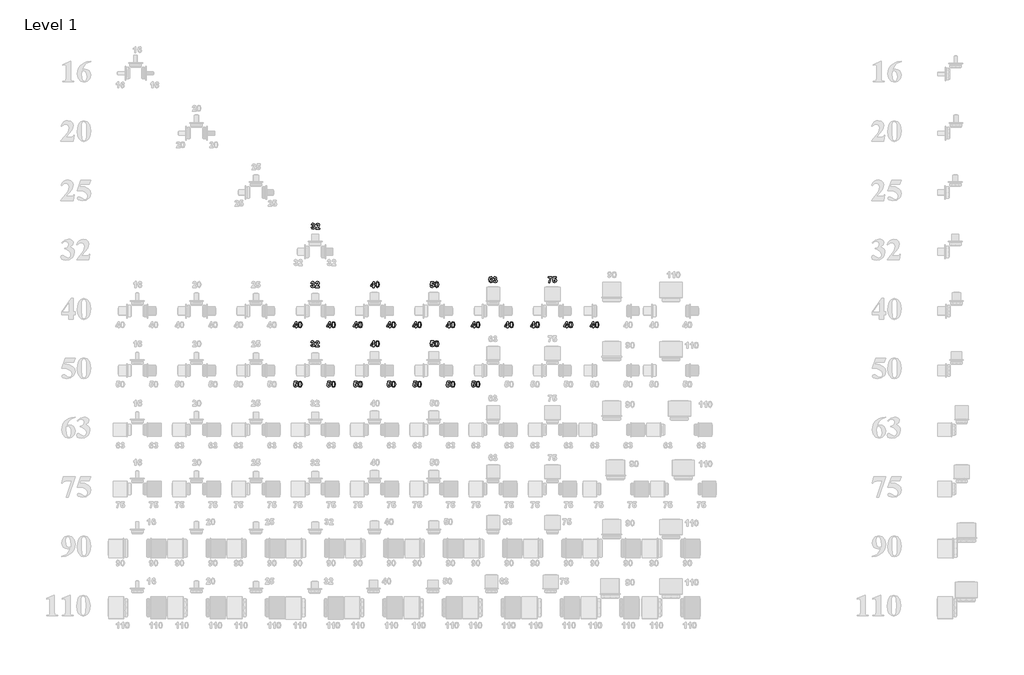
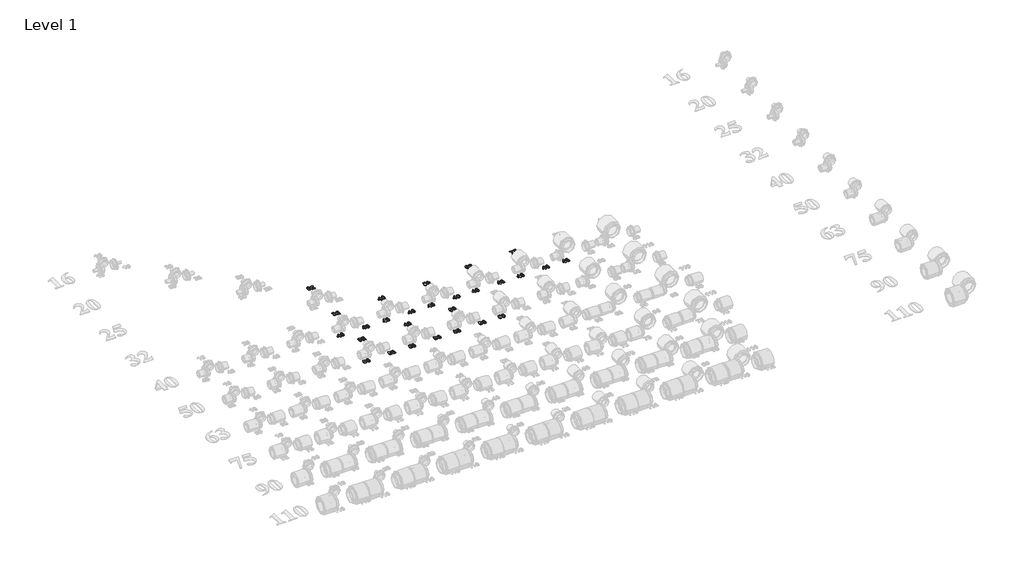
# One storey, part 24 of 57: 27 proxies.
"""IFC4 building model written with IfcOpenShell, lengths in millimetres."""

from ifc_helpers import new_model, si_unit, frame, origin, place, context, project, spatial, polyline, outline, extrude, element, save

model = new_model("IFC4")

# Units and contexts
model_context = context("Model", 3, world=origin())
ifc_project = project(units=[si_unit("LENGTHUNIT", "METRE", prefix="MILLI")], contexts=[model_context])

# Site, building, storey
site = spatial("IfcSite", under=ifc_project)
building = spatial("IfcBuilding", under=site)
storey = spatial("IfcBuildingStorey", under=building, Name="Level 1", Elevation=27.3876384)

# Proxies
placement = place(None, origin())
element("IfcBuildingElementProxy", 1, Name="30mm Arial", ObjectType="30mm Arial", at=placement, inside=storey, context=model_context, shape_type="SweptSolid", body=[
    extrude(outline(polyline([(14145.5234103, 17869.9527947), (14151.353464, 17870.6284129), (14152.6667443, 17867.3793725), (14155.2553489, 17866.2558726), (14158.0109602, 17867.5425837), (14159.1268689, 17871.0079737), (14158.1058504, 17874.2797877), (14155.612136, 17875.486791), (14153.2968152, 17875.0540917), (14153.8054267, 17879.8593313), (14156.6787018, 17880.8158244), (14157.6693555, 17883.5182973), (14156.929212, 17885.8070488), (14154.9592915, 17886.6610606), (14152.8830939, 17885.6704069), (14151.8393018, 17882.7743581), (14146.0092481, 17883.6473479), (14147.6147902, 17888.2817852), (14150.6133204, 17891.0108272), (14154.9213354, 17892.0052765), (14161.4649634, 17889.2496652), (14163.4994092, 17884.1483682), (14159.1344601, 17877.7186084), (14163.3703585, 17875.2173028), (14164.9569226, 17870.5221359), (14162.1443772, 17863.7242021), (14155.1414806, 17860.9116567), (14148.556101, 17863.4129623), (14145.5234103, 17869.9527947)])), frame((0.0, 0.0, 27.3876384), z_axis=(0.0, 0.0, 1.0), x_axis=(1.0, 0.0, 0.0)), (0.0, 0.0, 1.0), 2.0),
    extrude(outline(polyline([(14188.2771375, 17867.2275482), (14188.2771375, 17861.3974945), (14168.8436251, 17861.3974945), (14170.703473, 17867.1174756), (14176.8144017, 17874.2873789), (14181.3235838, 17879.1761218), (14182.4470838, 17882.6832635), (14181.5019774, 17885.6324508), (14178.8943948, 17886.6610606), (14176.2830166, 17885.6476333), (14175.1595166, 17882.2885203), (14169.3294629, 17882.8199054), (14172.4570438, 17889.8683493), (14179.0234455, 17892.0052765), (14185.8099924, 17889.6102479), (14188.2771375, 17883.6549391), (14187.6015193, 17879.7986015), (14185.4607964, 17875.9650376), (14181.8359909, 17872.1390648), (14178.5072428, 17868.8217035), (14177.4141077, 17867.2275482), (14188.2771375, 17867.2275482)])), frame((0.0, 0.0, 27.3876384), z_axis=(0.0, 0.0, 1.0), x_axis=(1.0, 0.0, 0.0)), (0.0, 0.0, 1.0), 2.0),
])
element("IfcBuildingElementProxy", 2, Name="30mm Arial", ObjectType="30mm Arial", at=placement, inside=storey, context=model_context, shape_type="SweptSolid", body=[
    extrude(outline(polyline([(14067.2836573, 17362.5788539), (14067.2836573, 17368.8947455), (14055.6235498, 17368.8947455), (14055.6235498, 17373.7303499), (14068.0579613, 17392.7007981), (14073.113711, 17392.7007981), (14073.113711, 17373.7531236), (14077.0004134, 17373.7531236), (14077.0004134, 17368.8947455), (14073.113711, 17368.8947455), (14073.113711, 17362.5788539), (14067.2836573, 17362.5788539)]), holes=[polyline([(14067.2836573, 17373.7531236), (14067.2836573, 17383.6976162), (14060.7703941, 17373.7531236), (14067.2836573, 17373.7531236)])]), frame((0.0, 0.0, 27.3876384), z_axis=(0.0, 0.0, 1.0), x_axis=(1.0, 0.0, 0.0)), (0.0, 0.0, 1.0), 2.0),
    extrude(outline(polyline([(14089.6321965, 17393.1866359), (14096.4263346, 17390.0286902), (14099.3489527, 17377.6322348), (14096.4111522, 17365.2054146), (14089.6321965, 17362.0930161), (14082.5913439, 17365.5090632), (14079.9154403, 17377.6929645), (14082.8532408, 17390.0742375), (14089.6321965, 17393.1866359)]), holes=[polyline([(14089.6321965, 17387.84242), (14087.6888453, 17387.2009623), (14086.3679737, 17384.8970283), (14085.745494, 17377.6322348), (14086.2996528, 17370.6141558), (14087.7002321, 17368.0710985), (14089.6321965, 17367.437232), (14091.5755477, 17368.0786898), (14092.8964193, 17370.3826237), (14093.518899, 17377.6322348), (14092.9647402, 17384.6465182), (14091.5641609, 17387.2009623), (14089.6321965, 17387.84242)])]), frame((0.0, 0.0, 27.3876384), z_axis=(0.0, 0.0, 1.0), x_axis=(1.0, 0.0, 0.0)), (0.0, 0.0, 1.0), 2.0),
])
element("IfcBuildingElementProxy", 3, Name="30mm Arial", ObjectType="30mm Arial", at=placement, inside=storey, context=model_context, shape_type="SweptSolid", body=[
    extrude(outline(polyline([(14236.0336573, 17362.5788539), (14236.0336573, 17368.8947455), (14224.3735498, 17368.8947455), (14224.3735498, 17373.7303499), (14236.8079613, 17392.7007981), (14241.863711, 17392.7007981), (14241.863711, 17373.7531236), (14245.7504134, 17373.7531236), (14245.7504134, 17368.8947455), (14241.863711, 17368.8947455), (14241.863711, 17362.5788539), (14236.0336573, 17362.5788539)]), holes=[polyline([(14236.0336573, 17373.7531236), (14236.0336573, 17383.6976162), (14229.5203941, 17373.7531236), (14236.0336573, 17373.7531236)])]), frame((0.0, 0.0, 27.3876384), z_axis=(0.0, 0.0, 1.0), x_axis=(1.0, 0.0, 0.0)), (0.0, 0.0, 1.0), 2.0),
    extrude(outline(polyline([(14258.3821965, 17393.1866359), (14265.1763346, 17390.0286902), (14268.0989527, 17377.6322348), (14265.1611522, 17365.2054146), (14258.3821965, 17362.0930161), (14251.3413439, 17365.5090632), (14248.6654403, 17377.6929645), (14251.6032408, 17390.0742375), (14258.3821965, 17393.1866359)]), holes=[polyline([(14258.3821965, 17387.84242), (14256.4388453, 17387.2009623), (14255.1179737, 17384.8970283), (14254.495494, 17377.6322348), (14255.0496528, 17370.6141558), (14256.4502321, 17368.0710985), (14258.3821965, 17367.437232), (14260.3255477, 17368.0786898), (14261.6464193, 17370.3826237), (14262.268899, 17377.6322348), (14261.7147402, 17384.6465182), (14260.3141609, 17387.2009623), (14258.3821965, 17387.84242)])]), frame((0.0, 0.0, 27.3876384), z_axis=(0.0, 0.0, 1.0), x_axis=(1.0, 0.0, 0.0)), (0.0, 0.0, 1.0), 2.0),
])
element("IfcBuildingElementProxy", 4, Name="30mm Arial", ObjectType="30mm Arial", at=placement, inside=storey, context=model_context, shape_type="SweptSolid", body=[
    extrude(outline(polyline([(14143.5234103, 17574.9527947), (14149.353464, 17575.6284129), (14150.6667443, 17572.3793725), (14153.2553489, 17571.2558726), (14156.0109602, 17572.5425837), (14157.1268689, 17576.0079737), (14156.1058504, 17579.2797877), (14153.612136, 17580.486791), (14151.2968152, 17580.0540917), (14151.8054267, 17584.8593313), (14154.6787018, 17585.8158244), (14155.6693555, 17588.5182973), (14154.929212, 17590.8070488), (14152.9592915, 17591.6610606), (14150.8830939, 17590.6704069), (14149.8393018, 17587.7743581), (14144.0092481, 17588.6473479), (14145.6147902, 17593.2817852), (14148.6133204, 17596.0108272), (14152.9213354, 17597.0052765), (14159.4649634, 17594.2496652), (14161.4994092, 17589.1483682), (14157.1344601, 17582.7186084), (14161.3703585, 17580.2173028), (14162.9569226, 17575.5221359), (14160.1443772, 17568.7242021), (14153.1414806, 17565.9116567), (14146.556101, 17568.4129623), (14143.5234103, 17574.9527947)])), frame((0.0, 0.0, 27.3876384), z_axis=(0.0, 0.0, 1.0), x_axis=(1.0, 0.0, 0.0)), (0.0, 0.0, 1.0), 2.0),
    extrude(outline(polyline([(14186.2771375, 17572.2275482), (14186.2771375, 17566.3974945), (14166.8436251, 17566.3974945), (14168.703473, 17572.1174756), (14174.8144017, 17579.2873789), (14179.3235838, 17584.1761218), (14180.4470838, 17587.6832635), (14179.5019774, 17590.6324508), (14176.8943948, 17591.6610606), (14174.2830166, 17590.6476333), (14173.1595166, 17587.2885203), (14167.3294629, 17587.8199054), (14170.4570438, 17594.8683493), (14177.0234455, 17597.0052765), (14183.8099924, 17594.6102479), (14186.2771375, 17588.6549391), (14185.6015193, 17584.7986015), (14183.4607964, 17580.9650376), (14179.8359909, 17577.1390648), (14176.5072428, 17573.8217035), (14175.4141077, 17572.2275482), (14186.2771375, 17572.2275482)])), frame((0.0, 0.0, 27.3876384), z_axis=(0.0, 0.0, 1.0), x_axis=(1.0, 0.0, 0.0)), (0.0, 0.0, 1.0), 2.0),
])
element("IfcBuildingElementProxy", 5, Name="30mm Arial", ObjectType="30mm Arial", at=placement, inside=storey, context=model_context, shape_type="SweptSolid", body=[
    extrude(outline(polyline([(14371.2836573, 17362.5788539), (14371.2836573, 17368.8947455), (14359.6235498, 17368.8947455), (14359.6235498, 17373.7303499), (14372.0579613, 17392.7007981), (14377.113711, 17392.7007981), (14377.113711, 17373.7531236), (14381.0004134, 17373.7531236), (14381.0004134, 17368.8947455), (14377.113711, 17368.8947455), (14377.113711, 17362.5788539), (14371.2836573, 17362.5788539)]), holes=[polyline([(14371.2836573, 17373.7531236), (14371.2836573, 17383.6976162), (14364.7703941, 17373.7531236), (14371.2836573, 17373.7531236)])]), frame((0.0, 0.0, 27.3876384), z_axis=(0.0, 0.0, 1.0), x_axis=(1.0, 0.0, 0.0)), (0.0, 0.0, 1.0), 2.0),
    extrude(outline(polyline([(14393.6321965, 17393.1866359), (14400.4263346, 17390.0286902), (14403.3489527, 17377.6322348), (14400.4111522, 17365.2054146), (14393.6321965, 17362.0930161), (14386.5913439, 17365.5090632), (14383.9154403, 17377.6929645), (14386.8532408, 17390.0742375), (14393.6321965, 17393.1866359)]), holes=[polyline([(14393.6321965, 17387.84242), (14391.6888453, 17387.2009623), (14390.3679737, 17384.8970283), (14389.745494, 17377.6322348), (14390.2996528, 17370.6141558), (14391.7002321, 17368.0710985), (14393.6321965, 17367.437232), (14395.5755477, 17368.0786898), (14396.8964193, 17370.3826237), (14397.518899, 17377.6322348), (14396.9647402, 17384.6465182), (14395.5641609, 17387.2009623), (14393.6321965, 17387.84242)])]), frame((0.0, 0.0, 27.3876384), z_axis=(0.0, 0.0, 1.0), x_axis=(1.0, 0.0, 0.0)), (0.0, 0.0, 1.0), 2.0),
])
element("IfcBuildingElementProxy", 6, Name="30mm Arial", ObjectType="30mm Arial", at=placement, inside=storey, context=model_context, shape_type="SweptSolid", body=[
    extrude(outline(polyline([(14540.0336573, 17362.5788539), (14540.0336573, 17368.8947455), (14528.3735498, 17368.8947455), (14528.3735498, 17373.7303499), (14540.8079613, 17392.7007981), (14545.863711, 17392.7007981), (14545.863711, 17373.7531236), (14549.7504134, 17373.7531236), (14549.7504134, 17368.8947455), (14545.863711, 17368.8947455), (14545.863711, 17362.5788539), (14540.0336573, 17362.5788539)]), holes=[polyline([(14540.0336573, 17373.7531236), (14540.0336573, 17383.6976162), (14533.5203941, 17373.7531236), (14540.0336573, 17373.7531236)])]), frame((0.0, 0.0, 27.3876384), z_axis=(0.0, 0.0, 1.0), x_axis=(1.0, 0.0, 0.0)), (0.0, 0.0, 1.0), 2.0),
    extrude(outline(polyline([(14562.3821965, 17393.1866359), (14569.1763346, 17390.0286902), (14572.0989527, 17377.6322348), (14569.1611522, 17365.2054146), (14562.3821965, 17362.0930161), (14555.3413439, 17365.5090632), (14552.6654403, 17377.6929645), (14555.6032408, 17390.0742375), (14562.3821965, 17393.1866359)]), holes=[polyline([(14562.3821965, 17387.84242), (14560.4388453, 17387.2009623), (14559.1179737, 17384.8970283), (14558.495494, 17377.6322348), (14559.0496528, 17370.6141558), (14560.4502321, 17368.0710985), (14562.3821965, 17367.437232), (14564.3255477, 17368.0786898), (14565.6464193, 17370.3826237), (14566.268899, 17377.6322348), (14565.7147402, 17384.6465182), (14564.3141609, 17387.2009623), (14562.3821965, 17387.84242)])]), frame((0.0, 0.0, 27.3876384), z_axis=(0.0, 0.0, 1.0), x_axis=(1.0, 0.0, 0.0)), (0.0, 0.0, 1.0), 2.0),
])
element("IfcBuildingElementProxy", 7, Name="30mm Arial", ObjectType="30mm Arial", at=placement, inside=storey, context=model_context, shape_type="SweptSolid", body=[
    extrude(outline(polyline([(14458.2118421, 17566.3974945), (14458.2118421, 17572.713386), (14446.5517346, 17572.713386), (14446.5517346, 17577.5489905), (14458.9861461, 17596.5194387), (14464.0418958, 17596.5194387), (14464.0418958, 17577.5717641), (14467.9285983, 17577.5717641), (14467.9285983, 17572.713386), (14464.0418958, 17572.713386), (14464.0418958, 17566.3974945), (14458.2118421, 17566.3974945)]), holes=[polyline([(14458.2118421, 17577.5717641), (14458.2118421, 17587.5162568), (14451.6985789, 17577.5717641), (14458.2118421, 17577.5717641)])]), frame((0.0, 0.0, 27.3876384), z_axis=(0.0, 0.0, 1.0), x_axis=(1.0, 0.0, 0.0)), (0.0, 0.0, 1.0), 2.0),
    extrude(outline(polyline([(14480.5603813, 17597.0052765), (14487.3545194, 17593.8473307), (14490.2771375, 17581.4508754), (14487.339337, 17569.0240552), (14480.5603813, 17565.9116567), (14473.5195287, 17569.3277038), (14470.8436251, 17581.5116051), (14473.7814256, 17593.892878), (14480.5603813, 17597.0052765)]), holes=[polyline([(14480.5603813, 17591.6610606), (14478.6170301, 17591.0196029), (14477.2961585, 17588.7156689), (14476.6736788, 17581.4508754), (14477.2278376, 17574.4327964), (14478.6284169, 17571.8897391), (14480.5603813, 17571.2558726), (14482.5037325, 17571.8973303), (14483.8246041, 17574.2012643), (14484.4470838, 17581.4508754), (14483.892925, 17588.4651587), (14482.4923457, 17591.0196029), (14480.5603813, 17591.6610606)])]), frame((0.0, 0.0, 27.3876384), z_axis=(0.0, 0.0, 1.0), x_axis=(1.0, 0.0, 0.0)), (0.0, 0.0, 1.0), 2.0),
])
element("IfcBuildingElementProxy", 8, Name="30mm Arial", ObjectType="30mm Arial", at=placement, inside=storey, context=model_context, shape_type="SweptSolid", body=[
    extrude(outline(polyline([(14671.2836573, 17362.5788539), (14671.2836573, 17368.8947455), (14659.6235498, 17368.8947455), (14659.6235498, 17373.7303499), (14672.0579613, 17392.7007981), (14677.113711, 17392.7007981), (14677.113711, 17373.7531236), (14681.0004134, 17373.7531236), (14681.0004134, 17368.8947455), (14677.113711, 17368.8947455), (14677.113711, 17362.5788539), (14671.2836573, 17362.5788539)]), holes=[polyline([(14671.2836573, 17373.7531236), (14671.2836573, 17383.6976162), (14664.7703941, 17373.7531236), (14671.2836573, 17373.7531236)])]), frame((0.0, 0.0, 27.3876384), z_axis=(0.0, 0.0, 1.0), x_axis=(1.0, 0.0, 0.0)), (0.0, 0.0, 1.0), 2.0),
    extrude(outline(polyline([(14693.6321965, 17393.1866359), (14700.4263346, 17390.0286902), (14703.3489527, 17377.6322348), (14700.4111522, 17365.2054146), (14693.6321965, 17362.0930161), (14686.5913439, 17365.5090632), (14683.9154403, 17377.6929645), (14686.8532408, 17390.0742375), (14693.6321965, 17393.1866359)]), holes=[polyline([(14693.6321965, 17387.84242), (14691.6888453, 17387.2009623), (14690.3679737, 17384.8970283), (14689.745494, 17377.6322348), (14690.2996528, 17370.6141558), (14691.7002321, 17368.0710985), (14693.6321965, 17367.437232), (14695.5755477, 17368.0786898), (14696.8964193, 17370.3826237), (14697.518899, 17377.6322348), (14696.9647402, 17384.6465182), (14695.5641609, 17387.2009623), (14693.6321965, 17387.84242)])]), frame((0.0, 0.0, 27.3876384), z_axis=(0.0, 0.0, 1.0), x_axis=(1.0, 0.0, 0.0)), (0.0, 0.0, 1.0), 2.0),
])
element("IfcBuildingElementProxy", 9, Name="30mm Arial", ObjectType="30mm Arial", at=placement, inside=storey, context=model_context, shape_type="SweptSolid", body=[
    extrude(outline(polyline([(14840.0336573, 17362.5788539), (14840.0336573, 17368.8947455), (14828.3735498, 17368.8947455), (14828.3735498, 17373.7303499), (14840.8079613, 17392.7007981), (14845.863711, 17392.7007981), (14845.863711, 17373.7531236), (14849.7504134, 17373.7531236), (14849.7504134, 17368.8947455), (14845.863711, 17368.8947455), (14845.863711, 17362.5788539), (14840.0336573, 17362.5788539)]), holes=[polyline([(14840.0336573, 17373.7531236), (14840.0336573, 17383.6976162), (14833.5203941, 17373.7531236), (14840.0336573, 17373.7531236)])]), frame((0.0, 0.0, 27.3876384), z_axis=(0.0, 0.0, 1.0), x_axis=(1.0, 0.0, 0.0)), (0.0, 0.0, 1.0), 2.0),
    extrude(outline(polyline([(14862.3821965, 17393.1866359), (14869.1763346, 17390.0286902), (14872.0989527, 17377.6322348), (14869.1611522, 17365.2054146), (14862.3821965, 17362.0930161), (14855.3413439, 17365.5090632), (14852.6654403, 17377.6929645), (14855.6032408, 17390.0742375), (14862.3821965, 17393.1866359)]), holes=[polyline([(14862.3821965, 17387.84242), (14860.4388453, 17387.2009623), (14859.1179737, 17384.8970283), (14858.495494, 17377.6322348), (14859.0496528, 17370.6141558), (14860.4502321, 17368.0710985), (14862.3821965, 17367.437232), (14864.3255477, 17368.0786898), (14865.6464193, 17370.3826237), (14866.268899, 17377.6322348), (14865.7147402, 17384.6465182), (14864.3141609, 17387.2009623), (14862.3821965, 17387.84242)])]), frame((0.0, 0.0, 27.3876384), z_axis=(0.0, 0.0, 1.0), x_axis=(1.0, 0.0, 0.0)), (0.0, 0.0, 1.0), 2.0),
])
element("IfcBuildingElementProxy", 10, Name="30mm Arial", ObjectType="30mm Arial", at=placement, inside=storey, context=model_context, shape_type="SweptSolid", body=[
    extrude(outline(polyline([(14747.5234103, 17575.0135244), (14752.8676262, 17575.6284129), (14754.3555044, 17572.432511), (14757.2098016, 17571.2558726), (14760.3335869, 17572.5046276), (14761.6127067, 17576.266075), (14760.4246815, 17579.7959903), (14757.331261, 17580.9726288), (14753.0649978, 17578.5434397), (14748.0092481, 17579.2949701), (14751.4101127, 17596.5194387), (14765.985247, 17596.5194387), (14765.985247, 17590.689385), (14756.1242577, 17590.689385), (14754.9476193, 17585.1250238), (14758.7052711, 17586.3168447), (14764.8997032, 17583.5574377), (14767.4427604, 17576.3951257), (14765.3248112, 17569.8439065), (14757.3008962, 17565.9116567), (14750.6168307, 17568.3788018), (14747.5234103, 17575.0135244)])), frame((0.0, 0.0, 27.3876384), z_axis=(0.0, 0.0, 1.0), x_axis=(1.0, 0.0, 0.0)), (0.0, 0.0, 1.0), 2.0),
    extrude(outline(polyline([(14780.5603813, 17597.0052765), (14787.3545194, 17593.8473307), (14790.2771375, 17581.4508754), (14787.339337, 17569.0240552), (14780.5603813, 17565.9116567), (14773.5195287, 17569.3277038), (14770.8436251, 17581.5116051), (14773.7814256, 17593.892878), (14780.5603813, 17597.0052765)]), holes=[polyline([(14780.5603813, 17591.6610606), (14778.6170301, 17591.0196029), (14777.2961585, 17588.7156689), (14776.6736788, 17581.4508754), (14777.2278376, 17574.4327964), (14778.6284169, 17571.8897391), (14780.5603813, 17571.2558726), (14782.5037325, 17571.8973303), (14783.8246041, 17574.2012643), (14784.4470838, 17581.4508754), (14783.892925, 17588.4651587), (14782.4923457, 17591.0196029), (14780.5603813, 17591.6610606)])]), frame((0.0, 0.0, 27.3876384), z_axis=(0.0, 0.0, 1.0), x_axis=(1.0, 0.0, 0.0)), (0.0, 0.0, 1.0), 2.0),
])
element("IfcBuildingElementProxy", 11, Name="30mm Arial", ObjectType="30mm Arial", at=placement, inside=storey, context=model_context, shape_type="SweptSolid", body=[
    extrude(outline(polyline([(14967.2836573, 17362.5788539), (14967.2836573, 17368.8947455), (14955.6235498, 17368.8947455), (14955.6235498, 17373.7303499), (14968.0579613, 17392.7007981), (14973.113711, 17392.7007981), (14973.113711, 17373.7531236), (14977.0004134, 17373.7531236), (14977.0004134, 17368.8947455), (14973.113711, 17368.8947455), (14973.113711, 17362.5788539), (14967.2836573, 17362.5788539)]), holes=[polyline([(14967.2836573, 17373.7531236), (14967.2836573, 17383.6976162), (14960.7703941, 17373.7531236), (14967.2836573, 17373.7531236)])]), frame((0.0, 0.0, 27.3876384), z_axis=(0.0, 0.0, 1.0), x_axis=(1.0, 0.0, 0.0)), (0.0, 0.0, 1.0), 2.0),
    extrude(outline(polyline([(14989.6321965, 17393.1866359), (14996.4263346, 17390.0286902), (14999.3489527, 17377.6322348), (14996.4111522, 17365.2054146), (14989.6321965, 17362.0930161), (14982.5913439, 17365.5090632), (14979.9154403, 17377.6929645), (14982.8532408, 17390.0742375), (14989.6321965, 17393.1866359)]), holes=[polyline([(14989.6321965, 17387.84242), (14987.6888453, 17387.2009623), (14986.3679737, 17384.8970283), (14985.745494, 17377.6322348), (14986.2996528, 17370.6141558), (14987.7002321, 17368.0710985), (14989.6321965, 17367.437232), (14991.5755477, 17368.0786898), (14992.8964193, 17370.3826237), (14993.518899, 17377.6322348), (14992.9647402, 17384.6465182), (14991.5641609, 17387.2009623), (14989.6321965, 17387.84242)])]), frame((0.0, 0.0, 27.3876384), z_axis=(0.0, 0.0, 1.0), x_axis=(1.0, 0.0, 0.0)), (0.0, 0.0, 1.0), 2.0),
])
element("IfcBuildingElementProxy", 12, Name="30mm Arial", ObjectType="30mm Arial", at=placement, inside=storey, context=model_context, shape_type="SweptSolid", body=[
    extrude(outline(polyline([(15136.0336573, 17362.5788539), (15136.0336573, 17368.8947455), (15124.3735498, 17368.8947455), (15124.3735498, 17373.7303499), (15136.8079613, 17392.7007981), (15141.863711, 17392.7007981), (15141.863711, 17373.7531236), (15145.7504134, 17373.7531236), (15145.7504134, 17368.8947455), (15141.863711, 17368.8947455), (15141.863711, 17362.5788539), (15136.0336573, 17362.5788539)]), holes=[polyline([(15136.0336573, 17373.7531236), (15136.0336573, 17383.6976162), (15129.5203941, 17373.7531236), (15136.0336573, 17373.7531236)])]), frame((0.0, 0.0, 27.3876384), z_axis=(0.0, 0.0, 1.0), x_axis=(1.0, 0.0, 0.0)), (0.0, 0.0, 1.0), 2.0),
    extrude(outline(polyline([(15158.3821965, 17393.1866359), (15165.1763346, 17390.0286902), (15168.0989527, 17377.6322348), (15165.1611522, 17365.2054146), (15158.3821965, 17362.0930161), (15151.3413439, 17365.5090632), (15148.6654403, 17377.6929645), (15151.6032408, 17390.0742375), (15158.3821965, 17393.1866359)]), holes=[polyline([(15158.3821965, 17387.84242), (15156.4388453, 17387.2009623), (15155.1179737, 17384.8970283), (15154.495494, 17377.6322348), (15155.0496528, 17370.6141558), (15156.4502321, 17368.0710985), (15158.3821965, 17367.437232), (15160.3255477, 17368.0786898), (15161.6464193, 17370.3826237), (15162.268899, 17377.6322348), (15161.7147402, 17384.6465182), (15160.3141609, 17387.2009623), (15158.3821965, 17387.84242)])]), frame((0.0, 0.0, 27.3876384), z_axis=(0.0, 0.0, 1.0), x_axis=(1.0, 0.0, 0.0)), (0.0, 0.0, 1.0), 2.0),
])
element("IfcBuildingElementProxy", 13, Name="30mm Arial", ObjectType="30mm Arial", at=placement, inside=storey, context=model_context, shape_type="SweptSolid", body=[
    extrude(outline(polyline([(15062.4710848, 17613.8826756), (15056.6410311, 17613.2601959), (15055.6086258, 17615.8298225), (15053.4375381, 17616.6610606), (15050.446599, 17615.0479272), (15048.9055822, 17608.2727672), (15054.2346157, 17610.8310069), (15060.3948873, 17608.0981692), (15062.9569226, 17601.0459297), (15060.3379532, 17593.686246), (15053.6045448, 17590.9116567), (15046.362525, 17594.4947105), (15043.5234103, 17606.2383213), (15046.48778, 17618.3083544), (15054.1890684, 17622.0052765), (15059.6926998, 17619.9252834), (15062.4710848, 17613.8826756)]), holes=[polyline([(15049.353464, 17601.1749804), (15050.6136058, 17597.5349924), (15053.4906766, 17596.2558726), (15056.0868724, 17597.3034604), (15057.1268689, 17600.7422811), (15056.0071646, 17604.344313), (15053.2098016, 17605.486791), (15050.4731683, 17604.3936559), (15049.353464, 17601.1749804)])]), frame((0.0, 0.0, 27.3876384), z_axis=(0.0, 0.0, 1.0), x_axis=(1.0, 0.0, 0.0)), (0.0, 0.0, 1.0), 2.0),
    extrude(outline(polyline([(15066.8436251, 17599.9527947), (15072.6736788, 17600.6284129), (15073.9869592, 17597.3793725), (15076.5755637, 17596.2558726), (15079.3311751, 17597.5425837), (15080.4470838, 17601.0079737), (15079.4260653, 17604.2797877), (15076.9323509, 17605.486791), (15074.6170301, 17605.0540917), (15075.1256415, 17609.8593313), (15077.9989167, 17610.8158244), (15078.9895703, 17613.5182973), (15078.2494268, 17615.8070488), (15076.2795063, 17616.6610606), (15074.2033088, 17615.6704069), (15073.1595166, 17612.7743581), (15067.3294629, 17613.6473479), (15068.9350051, 17618.2817852), (15071.9335353, 17621.0108272), (15076.2415502, 17622.0052765), (15082.7851782, 17619.2496652), (15084.8196241, 17614.1483682), (15080.454675, 17607.7186084), (15084.6905734, 17605.2173028), (15086.2771375, 17600.5221359), (15083.464592, 17593.7242021), (15076.4616955, 17590.9116567), (15069.8763158, 17593.4129623), (15066.8436251, 17599.9527947)])), frame((0.0, 0.0, 27.3876384), z_axis=(0.0, 0.0, 1.0), x_axis=(1.0, 0.0, 0.0)), (0.0, 0.0, 1.0), 2.0),
])
element("IfcBuildingElementProxy", 14, Name="30mm Arial", ObjectType="30mm Arial", at=placement, inside=storey, context=model_context, shape_type="SweptSolid", body=[
    extrude(outline(polyline([(15267.2836573, 17362.5788539), (15267.2836573, 17368.8947455), (15255.6235498, 17368.8947455), (15255.6235498, 17373.7303499), (15268.0579613, 17392.7007981), (15273.113711, 17392.7007981), (15273.113711, 17373.7531236), (15277.0004134, 17373.7531236), (15277.0004134, 17368.8947455), (15273.113711, 17368.8947455), (15273.113711, 17362.5788539), (15267.2836573, 17362.5788539)]), holes=[polyline([(15267.2836573, 17373.7531236), (15267.2836573, 17383.6976162), (15260.7703941, 17373.7531236), (15267.2836573, 17373.7531236)])]), frame((0.0, 0.0, 27.3876384), z_axis=(0.0, 0.0, 1.0), x_axis=(1.0, 0.0, 0.0)), (0.0, 0.0, 1.0), 2.0),
    extrude(outline(polyline([(15289.6321965, 17393.1866359), (15296.4263346, 17390.0286902), (15299.3489527, 17377.6322348), (15296.4111522, 17365.2054146), (15289.6321965, 17362.0930161), (15282.5913439, 17365.5090632), (15279.9154403, 17377.6929645), (15282.8532408, 17390.0742375), (15289.6321965, 17393.1866359)]), holes=[polyline([(15289.6321965, 17387.84242), (15287.6888453, 17387.2009623), (15286.3679737, 17384.8970283), (15285.745494, 17377.6322348), (15286.2996528, 17370.6141558), (15287.7002321, 17368.0710985), (15289.6321965, 17367.437232), (15291.5755477, 17368.0786898), (15292.8964193, 17370.3826237), (15293.518899, 17377.6322348), (15292.9647402, 17384.6465182), (15291.5641609, 17387.2009623), (15289.6321965, 17387.84242)])]), frame((0.0, 0.0, 27.3876384), z_axis=(0.0, 0.0, 1.0), x_axis=(1.0, 0.0, 0.0)), (0.0, 0.0, 1.0), 2.0),
])
element("IfcBuildingElementProxy", 15, Name="30mm Arial", ObjectType="30mm Arial", at=placement, inside=storey, context=model_context, shape_type="SweptSolid", body=[
    extrude(outline(polyline([(15436.0336573, 17362.5788539), (15436.0336573, 17368.8947455), (15424.3735498, 17368.8947455), (15424.3735498, 17373.7303499), (15436.8079613, 17392.7007981), (15441.863711, 17392.7007981), (15441.863711, 17373.7531236), (15445.7504134, 17373.7531236), (15445.7504134, 17368.8947455), (15441.863711, 17368.8947455), (15441.863711, 17362.5788539), (15436.0336573, 17362.5788539)]), holes=[polyline([(15436.0336573, 17373.7531236), (15436.0336573, 17383.6976162), (15429.5203941, 17373.7531236), (15436.0336573, 17373.7531236)])]), frame((0.0, 0.0, 27.3876384), z_axis=(0.0, 0.0, 1.0), x_axis=(1.0, 0.0, 0.0)), (0.0, 0.0, 1.0), 2.0),
    extrude(outline(polyline([(15458.3821965, 17393.1866359), (15465.1763346, 17390.0286902), (15468.0989527, 17377.6322348), (15465.1611522, 17365.2054146), (15458.3821965, 17362.0930161), (15451.3413439, 17365.5090632), (15448.6654403, 17377.6929645), (15451.6032408, 17390.0742375), (15458.3821965, 17393.1866359)]), holes=[polyline([(15458.3821965, 17387.84242), (15456.4388453, 17387.2009623), (15455.1179737, 17384.8970283), (15454.495494, 17377.6322348), (15455.0496528, 17370.6141558), (15456.4502321, 17368.0710985), (15458.3821965, 17367.437232), (15460.3255477, 17368.0786898), (15461.6464193, 17370.3826237), (15462.268899, 17377.6322348), (15461.7147402, 17384.6465182), (15460.3141609, 17387.2009623), (15458.3821965, 17387.84242)])]), frame((0.0, 0.0, 27.3876384), z_axis=(0.0, 0.0, 1.0), x_axis=(1.0, 0.0, 0.0)), (0.0, 0.0, 1.0), 2.0),
])
element("IfcBuildingElementProxy", 16, Name="30mm Arial", ObjectType="30mm Arial", at=placement, inside=storey, context=model_context, shape_type="SweptSolid", body=[
    extrude(outline(polyline([(15343.5234103, 17615.689385), (15343.5234103, 17621.5194387), (15362.9569226, 17621.5194387), (15362.9569226, 17617.1468984), (15357.9505158, 17610.1781623), (15354.067609, 17600.5297271), (15352.7543286, 17591.3974945), (15346.9242749, 17591.3974945), (15349.584996, 17604.1089853), (15356.2918352, 17615.689385), (15343.5234103, 17615.689385)])), frame((0.0, 0.0, 27.3876384), z_axis=(0.0, 0.0, 1.0), x_axis=(1.0, 0.0, 0.0)), (0.0, 0.0, 1.0), 2.0),
    extrude(outline(polyline([(15366.8436251, 17600.0135244), (15372.187841, 17600.6284129), (15373.6757193, 17597.432511), (15376.5300164, 17596.2558726), (15379.6538017, 17597.5046276), (15380.9329216, 17601.266075), (15379.7448963, 17604.7959903), (15376.6514759, 17605.9726288), (15372.3852126, 17603.5434397), (15367.3294629, 17604.2949701), (15370.7303276, 17621.5194387), (15385.3054619, 17621.5194387), (15385.3054619, 17615.689385), (15375.4444726, 17615.689385), (15374.2678341, 17610.1250238), (15378.0254859, 17611.3168447), (15384.219918, 17608.5574377), (15386.7629753, 17601.3951257), (15384.6450261, 17594.8439065), (15376.621111, 17590.9116567), (15369.9370455, 17593.3788018), (15366.8436251, 17600.0135244)])), frame((0.0, 0.0, 27.3876384), z_axis=(0.0, 0.0, 1.0), x_axis=(1.0, 0.0, 0.0)), (0.0, 0.0, 1.0), 2.0),
])
element("IfcBuildingElementProxy", 17, Name="30mm Arial", ObjectType="30mm Arial", at=placement, inside=storey, context=model_context, shape_type="SweptSolid", body=[
    extrude(outline(polyline([(15569.2836573, 17362.5788539), (15569.2836573, 17368.8947455), (15557.6235498, 17368.8947455), (15557.6235498, 17373.7303499), (15570.0579613, 17392.7007981), (15575.113711, 17392.7007981), (15575.113711, 17373.7531236), (15579.0004134, 17373.7531236), (15579.0004134, 17368.8947455), (15575.113711, 17368.8947455), (15575.113711, 17362.5788539), (15569.2836573, 17362.5788539)]), holes=[polyline([(15569.2836573, 17373.7531236), (15569.2836573, 17383.6976162), (15562.7703941, 17373.7531236), (15569.2836573, 17373.7531236)])]), frame((0.0, 0.0, 27.3876384), z_axis=(0.0, 0.0, 1.0), x_axis=(1.0, 0.0, 0.0)), (0.0, 0.0, 1.0), 2.0),
    extrude(outline(polyline([(15591.6321965, 17393.1866359), (15598.4263346, 17390.0286902), (15601.3489527, 17377.6322348), (15598.4111522, 17365.2054146), (15591.6321965, 17362.0930161), (15584.5913439, 17365.5090632), (15581.9154403, 17377.6929645), (15584.8532408, 17390.0742375), (15591.6321965, 17393.1866359)]), holes=[polyline([(15591.6321965, 17387.84242), (15589.6888453, 17387.2009623), (15588.3679737, 17384.8970283), (15587.745494, 17377.6322348), (15588.2996528, 17370.6141558), (15589.7002321, 17368.0710985), (15591.6321965, 17367.437232), (15593.5755477, 17368.0786898), (15594.8964193, 17370.3826237), (15595.518899, 17377.6322348), (15594.9647402, 17384.6465182), (15593.5641609, 17387.2009623), (15591.6321965, 17387.84242)])]), frame((0.0, 0.0, 27.3876384), z_axis=(0.0, 0.0, 1.0), x_axis=(1.0, 0.0, 0.0)), (0.0, 0.0, 1.0), 2.0),
])
element("IfcBuildingElementProxy", 18, Name="30mm Arial", ObjectType="30mm Arial", at=placement, inside=storey, context=model_context, shape_type="SweptSolid", body=[
    extrude(outline(polyline([(14056.5952254, 17071.1948838), (14061.9394414, 17071.8097723), (14063.4273196, 17068.6138705), (14066.2816168, 17067.437232), (14069.4054021, 17068.685987), (14070.6845219, 17072.4474344), (14069.4964967, 17075.9773498), (14066.4030762, 17077.1539882), (14062.136813, 17074.7247992), (14057.0810633, 17075.4763295), (14060.4819279, 17092.7007981), (14075.0570622, 17092.7007981), (14075.0570622, 17086.8707444), (14065.1960729, 17086.8707444), (14064.0194345, 17081.3063832), (14067.7770863, 17082.4982041), (14073.9715184, 17079.7387972), (14076.5145756, 17072.5764851), (14074.3966264, 17066.0252659), (14066.3727114, 17062.0930161), (14059.6886459, 17064.5601612), (14056.5952254, 17071.1948838)])), frame((0.0, 0.0, 27.3876384), z_axis=(0.0, 0.0, 1.0), x_axis=(1.0, 0.0, 0.0)), (0.0, 0.0, 1.0), 2.0),
    extrude(outline(polyline([(14089.6321965, 17093.1866359), (14096.4263346, 17090.0286902), (14099.3489527, 17077.6322348), (14096.4111522, 17065.2054146), (14089.6321965, 17062.0930161), (14082.5913439, 17065.5090632), (14079.9154403, 17077.6929645), (14082.8532408, 17090.0742375), (14089.6321965, 17093.1866359)]), holes=[polyline([(14089.6321965, 17087.84242), (14087.6888453, 17087.2009623), (14086.3679737, 17084.8970283), (14085.745494, 17077.6322348), (14086.2996528, 17070.6141558), (14087.7002321, 17068.0710985), (14089.6321965, 17067.437232), (14091.5755477, 17068.0786898), (14092.8964193, 17070.3826237), (14093.518899, 17077.6322348), (14092.9647402, 17084.6465182), (14091.5641609, 17087.2009623), (14089.6321965, 17087.84242)])]), frame((0.0, 0.0, 27.3876384), z_axis=(0.0, 0.0, 1.0), x_axis=(1.0, 0.0, 0.0)), (0.0, 0.0, 1.0), 2.0),
])
element("IfcBuildingElementProxy", 19, Name="30mm Arial", ObjectType="30mm Arial", at=placement, inside=storey, context=model_context, shape_type="SweptSolid", body=[
    extrude(outline(polyline([(14225.3452254, 17071.1948838), (14230.6894414, 17071.8097723), (14232.1773196, 17068.6138705), (14235.0316168, 17067.437232), (14238.1554021, 17068.685987), (14239.4345219, 17072.4474344), (14238.2464967, 17075.9773498), (14235.1530762, 17077.1539882), (14230.886813, 17074.7247992), (14225.8310633, 17075.4763295), (14229.2319279, 17092.7007981), (14243.8070622, 17092.7007981), (14243.8070622, 17086.8707444), (14233.9460729, 17086.8707444), (14232.7694345, 17081.3063832), (14236.5270863, 17082.4982041), (14242.7215184, 17079.7387972), (14245.2645756, 17072.5764851), (14243.1466264, 17066.0252659), (14235.1227114, 17062.0930161), (14228.4386459, 17064.5601612), (14225.3452254, 17071.1948838)])), frame((0.0, 0.0, 27.3876384), z_axis=(0.0, 0.0, 1.0), x_axis=(1.0, 0.0, 0.0)), (0.0, 0.0, 1.0), 2.0),
    extrude(outline(polyline([(14258.3821965, 17093.1866359), (14265.1763346, 17090.0286902), (14268.0989527, 17077.6322348), (14265.1611522, 17065.2054146), (14258.3821965, 17062.0930161), (14251.3413439, 17065.5090632), (14248.6654403, 17077.6929645), (14251.6032408, 17090.0742375), (14258.3821965, 17093.1866359)]), holes=[polyline([(14258.3821965, 17087.84242), (14256.4388453, 17087.2009623), (14255.1179737, 17084.8970283), (14254.495494, 17077.6322348), (14255.0496528, 17070.6141558), (14256.4502321, 17068.0710985), (14258.3821965, 17067.437232), (14260.3255477, 17068.0786898), (14261.6464193, 17070.3826237), (14262.268899, 17077.6322348), (14261.7147402, 17084.6465182), (14260.3141609, 17087.2009623), (14258.3821965, 17087.84242)])]), frame((0.0, 0.0, 27.3876384), z_axis=(0.0, 0.0, 1.0), x_axis=(1.0, 0.0, 0.0)), (0.0, 0.0, 1.0), 2.0),
])
element("IfcBuildingElementProxy", 20, Name="30mm Arial", ObjectType="30mm Arial", at=placement, inside=storey, context=model_context, shape_type="SweptSolid", body=[
    extrude(outline(polyline([(14143.5234103, 17274.9527947), (14149.353464, 17275.6284129), (14150.6667443, 17272.3793725), (14153.2553489, 17271.2558726), (14156.0109602, 17272.5425837), (14157.1268689, 17276.0079737), (14156.1058504, 17279.2797877), (14153.612136, 17280.486791), (14151.2968152, 17280.0540917), (14151.8054267, 17284.8593313), (14154.6787018, 17285.8158244), (14155.6693555, 17288.5182973), (14154.929212, 17290.8070488), (14152.9592915, 17291.6610606), (14150.8830939, 17290.6704069), (14149.8393018, 17287.7743581), (14144.0092481, 17288.6473479), (14145.6147902, 17293.2817852), (14148.6133204, 17296.0108272), (14152.9213354, 17297.0052765), (14159.4649634, 17294.2496652), (14161.4994092, 17289.1483682), (14157.1344601, 17282.7186084), (14161.3703585, 17280.2173028), (14162.9569226, 17275.5221359), (14160.1443772, 17268.7242021), (14153.1414806, 17265.9116567), (14146.556101, 17268.4129623), (14143.5234103, 17274.9527947)])), frame((0.0, 0.0, 27.3876384), z_axis=(0.0, 0.0, 1.0), x_axis=(1.0, 0.0, 0.0)), (0.0, 0.0, 1.0), 2.0),
    extrude(outline(polyline([(14186.2771375, 17272.2275482), (14186.2771375, 17266.3974945), (14166.8436251, 17266.3974945), (14168.703473, 17272.1174756), (14174.8144017, 17279.2873789), (14179.3235838, 17284.1761218), (14180.4470838, 17287.6832635), (14179.5019774, 17290.6324508), (14176.8943948, 17291.6610606), (14174.2830166, 17290.6476333), (14173.1595166, 17287.2885203), (14167.3294629, 17287.8199054), (14170.4570438, 17294.8683493), (14177.0234455, 17297.0052765), (14183.8099924, 17294.6102479), (14186.2771375, 17288.6549391), (14185.6015193, 17284.7986015), (14183.4607964, 17280.9650376), (14179.8359909, 17277.1390648), (14176.5072428, 17273.8217035), (14175.4141077, 17272.2275482), (14186.2771375, 17272.2275482)])), frame((0.0, 0.0, 27.3876384), z_axis=(0.0, 0.0, 1.0), x_axis=(1.0, 0.0, 0.0)), (0.0, 0.0, 1.0), 2.0),
])
element("IfcBuildingElementProxy", 21, Name="30mm Arial", ObjectType="30mm Arial", at=placement, inside=storey, context=model_context, shape_type="SweptSolid", body=[
    extrude(outline(polyline([(14360.5952254, 17071.1948838), (14365.9394414, 17071.8097723), (14367.4273196, 17068.6138705), (14370.2816168, 17067.437232), (14373.4054021, 17068.685987), (14374.6845219, 17072.4474344), (14373.4964967, 17075.9773498), (14370.4030762, 17077.1539882), (14366.136813, 17074.7247992), (14361.0810633, 17075.4763295), (14364.4819279, 17092.7007981), (14379.0570622, 17092.7007981), (14379.0570622, 17086.8707444), (14369.1960729, 17086.8707444), (14368.0194345, 17081.3063832), (14371.7770863, 17082.4982041), (14377.9715184, 17079.7387972), (14380.5145756, 17072.5764851), (14378.3966264, 17066.0252659), (14370.3727114, 17062.0930161), (14363.6886459, 17064.5601612), (14360.5952254, 17071.1948838)])), frame((0.0, 0.0, 27.3876384), z_axis=(0.0, 0.0, 1.0), x_axis=(1.0, 0.0, 0.0)), (0.0, 0.0, 1.0), 2.0),
    extrude(outline(polyline([(14393.6321965, 17093.1866359), (14400.4263346, 17090.0286902), (14403.3489527, 17077.6322348), (14400.4111522, 17065.2054146), (14393.6321965, 17062.0930161), (14386.5913439, 17065.5090632), (14383.9154403, 17077.6929645), (14386.8532408, 17090.0742375), (14393.6321965, 17093.1866359)]), holes=[polyline([(14393.6321965, 17087.84242), (14391.6888453, 17087.2009623), (14390.3679737, 17084.8970283), (14389.745494, 17077.6322348), (14390.2996528, 17070.6141558), (14391.7002321, 17068.0710985), (14393.6321965, 17067.437232), (14395.5755477, 17068.0786898), (14396.8964193, 17070.3826237), (14397.518899, 17077.6322348), (14396.9647402, 17084.6465182), (14395.5641609, 17087.2009623), (14393.6321965, 17087.84242)])]), frame((0.0, 0.0, 27.3876384), z_axis=(0.0, 0.0, 1.0), x_axis=(1.0, 0.0, 0.0)), (0.0, 0.0, 1.0), 2.0),
])
element("IfcBuildingElementProxy", 22, Name="30mm Arial", ObjectType="30mm Arial", at=placement, inside=storey, context=model_context, shape_type="SweptSolid", body=[
    extrude(outline(polyline([(14529.3452254, 17071.1948838), (14534.6894414, 17071.8097723), (14536.1773196, 17068.6138705), (14539.0316168, 17067.437232), (14542.1554021, 17068.685987), (14543.4345219, 17072.4474344), (14542.2464967, 17075.9773498), (14539.1530762, 17077.1539882), (14534.886813, 17074.7247992), (14529.8310633, 17075.4763295), (14533.2319279, 17092.7007981), (14547.8070622, 17092.7007981), (14547.8070622, 17086.8707444), (14537.9460729, 17086.8707444), (14536.7694345, 17081.3063832), (14540.5270863, 17082.4982041), (14546.7215184, 17079.7387972), (14549.2645756, 17072.5764851), (14547.1466264, 17066.0252659), (14539.1227114, 17062.0930161), (14532.4386459, 17064.5601612), (14529.3452254, 17071.1948838)])), frame((0.0, 0.0, 27.3876384), z_axis=(0.0, 0.0, 1.0), x_axis=(1.0, 0.0, 0.0)), (0.0, 0.0, 1.0), 2.0),
    extrude(outline(polyline([(14562.3821965, 17093.1866359), (14569.1763346, 17090.0286902), (14572.0989527, 17077.6322348), (14569.1611522, 17065.2054146), (14562.3821965, 17062.0930161), (14555.3413439, 17065.5090632), (14552.6654403, 17077.6929645), (14555.6032408, 17090.0742375), (14562.3821965, 17093.1866359)]), holes=[polyline([(14562.3821965, 17087.84242), (14560.4388453, 17087.2009623), (14559.1179737, 17084.8970283), (14558.495494, 17077.6322348), (14559.0496528, 17070.6141558), (14560.4502321, 17068.0710985), (14562.3821965, 17067.437232), (14564.3255477, 17068.0786898), (14565.6464193, 17070.3826237), (14566.268899, 17077.6322348), (14565.7147402, 17084.6465182), (14564.3141609, 17087.2009623), (14562.3821965, 17087.84242)])]), frame((0.0, 0.0, 27.3876384), z_axis=(0.0, 0.0, 1.0), x_axis=(1.0, 0.0, 0.0)), (0.0, 0.0, 1.0), 2.0),
])
element("IfcBuildingElementProxy", 23, Name="30mm Arial", ObjectType="30mm Arial", at=placement, inside=storey, context=model_context, shape_type="SweptSolid", body=[
    extrude(outline(polyline([(14458.2118421, 17266.3974945), (14458.2118421, 17272.713386), (14446.5517346, 17272.713386), (14446.5517346, 17277.5489905), (14458.9861461, 17296.5194387), (14464.0418958, 17296.5194387), (14464.0418958, 17277.5717641), (14467.9285983, 17277.5717641), (14467.9285983, 17272.713386), (14464.0418958, 17272.713386), (14464.0418958, 17266.3974945), (14458.2118421, 17266.3974945)]), holes=[polyline([(14458.2118421, 17277.5717641), (14458.2118421, 17287.5162568), (14451.6985789, 17277.5717641), (14458.2118421, 17277.5717641)])]), frame((0.0, 0.0, 27.3876384), z_axis=(0.0, 0.0, 1.0), x_axis=(1.0, 0.0, 0.0)), (0.0, 0.0, 1.0), 2.0),
    extrude(outline(polyline([(14480.5603813, 17297.0052765), (14487.3545194, 17293.8473307), (14490.2771375, 17281.4508754), (14487.339337, 17269.0240552), (14480.5603813, 17265.9116567), (14473.5195287, 17269.3277038), (14470.8436251, 17281.5116051), (14473.7814256, 17293.892878), (14480.5603813, 17297.0052765)]), holes=[polyline([(14480.5603813, 17291.6610606), (14478.6170301, 17291.0196029), (14477.2961585, 17288.7156689), (14476.6736788, 17281.4508754), (14477.2278376, 17274.4327964), (14478.6284169, 17271.8897391), (14480.5603813, 17271.2558726), (14482.5037325, 17271.8973303), (14483.8246041, 17274.2012643), (14484.4470838, 17281.4508754), (14483.892925, 17288.4651587), (14482.4923457, 17291.0196029), (14480.5603813, 17291.6610606)])]), frame((0.0, 0.0, 27.3876384), z_axis=(0.0, 0.0, 1.0), x_axis=(1.0, 0.0, 0.0)), (0.0, 0.0, 1.0), 2.0),
])
element("IfcBuildingElementProxy", 24, Name="30mm Arial", ObjectType="30mm Arial", at=placement, inside=storey, context=model_context, shape_type="SweptSolid", body=[
    extrude(outline(polyline([(14660.5952254, 17071.1948838), (14665.9394414, 17071.8097723), (14667.4273196, 17068.6138705), (14670.2816168, 17067.437232), (14673.4054021, 17068.685987), (14674.6845219, 17072.4474344), (14673.4964967, 17075.9773498), (14670.4030762, 17077.1539882), (14666.136813, 17074.7247992), (14661.0810633, 17075.4763295), (14664.4819279, 17092.7007981), (14679.0570622, 17092.7007981), (14679.0570622, 17086.8707444), (14669.1960729, 17086.8707444), (14668.0194345, 17081.3063832), (14671.7770863, 17082.4982041), (14677.9715184, 17079.7387972), (14680.5145756, 17072.5764851), (14678.3966264, 17066.0252659), (14670.3727114, 17062.0930161), (14663.6886459, 17064.5601612), (14660.5952254, 17071.1948838)])), frame((0.0, 0.0, 27.3876384), z_axis=(0.0, 0.0, 1.0), x_axis=(1.0, 0.0, 0.0)), (0.0, 0.0, 1.0), 2.0),
    extrude(outline(polyline([(14693.6321965, 17093.1866359), (14700.4263346, 17090.0286902), (14703.3489527, 17077.6322348), (14700.4111522, 17065.2054146), (14693.6321965, 17062.0930161), (14686.5913439, 17065.5090632), (14683.9154403, 17077.6929645), (14686.8532408, 17090.0742375), (14693.6321965, 17093.1866359)]), holes=[polyline([(14693.6321965, 17087.84242), (14691.6888453, 17087.2009623), (14690.3679737, 17084.8970283), (14689.745494, 17077.6322348), (14690.2996528, 17070.6141558), (14691.7002321, 17068.0710985), (14693.6321965, 17067.437232), (14695.5755477, 17068.0786898), (14696.8964193, 17070.3826237), (14697.518899, 17077.6322348), (14696.9647402, 17084.6465182), (14695.5641609, 17087.2009623), (14693.6321965, 17087.84242)])]), frame((0.0, 0.0, 27.3876384), z_axis=(0.0, 0.0, 1.0), x_axis=(1.0, 0.0, 0.0)), (0.0, 0.0, 1.0), 2.0),
])
element("IfcBuildingElementProxy", 25, Name="30mm Arial", ObjectType="30mm Arial", at=placement, inside=storey, context=model_context, shape_type="SweptSolid", body=[
    extrude(outline(polyline([(14829.3452254, 17071.1948838), (14834.6894414, 17071.8097723), (14836.1773196, 17068.6138705), (14839.0316168, 17067.437232), (14842.1554021, 17068.685987), (14843.4345219, 17072.4474344), (14842.2464967, 17075.9773498), (14839.1530762, 17077.1539882), (14834.886813, 17074.7247992), (14829.8310633, 17075.4763295), (14833.2319279, 17092.7007981), (14847.8070622, 17092.7007981), (14847.8070622, 17086.8707444), (14837.9460729, 17086.8707444), (14836.7694345, 17081.3063832), (14840.5270863, 17082.4982041), (14846.7215184, 17079.7387972), (14849.2645756, 17072.5764851), (14847.1466264, 17066.0252659), (14839.1227114, 17062.0930161), (14832.4386459, 17064.5601612), (14829.3452254, 17071.1948838)])), frame((0.0, 0.0, 27.3876384), z_axis=(0.0, 0.0, 1.0), x_axis=(1.0, 0.0, 0.0)), (0.0, 0.0, 1.0), 2.0),
    extrude(outline(polyline([(14862.3821965, 17093.1866359), (14869.1763346, 17090.0286902), (14872.0989527, 17077.6322348), (14869.1611522, 17065.2054146), (14862.3821965, 17062.0930161), (14855.3413439, 17065.5090632), (14852.6654403, 17077.6929645), (14855.6032408, 17090.0742375), (14862.3821965, 17093.1866359)]), holes=[polyline([(14862.3821965, 17087.84242), (14860.4388453, 17087.2009623), (14859.1179737, 17084.8970283), (14858.495494, 17077.6322348), (14859.0496528, 17070.6141558), (14860.4502321, 17068.0710985), (14862.3821965, 17067.437232), (14864.3255477, 17068.0786898), (14865.6464193, 17070.3826237), (14866.268899, 17077.6322348), (14865.7147402, 17084.6465182), (14864.3141609, 17087.2009623), (14862.3821965, 17087.84242)])]), frame((0.0, 0.0, 27.3876384), z_axis=(0.0, 0.0, 1.0), x_axis=(1.0, 0.0, 0.0)), (0.0, 0.0, 1.0), 2.0),
])
element("IfcBuildingElementProxy", 26, Name="30mm Arial", ObjectType="30mm Arial", at=placement, inside=storey, context=model_context, shape_type="SweptSolid", body=[
    extrude(outline(polyline([(14747.5234103, 17275.0135244), (14752.8676262, 17275.6284129), (14754.3555044, 17272.432511), (14757.2098016, 17271.2558726), (14760.3335869, 17272.5046276), (14761.6127067, 17276.266075), (14760.4246815, 17279.7959903), (14757.331261, 17280.9726288), (14753.0649978, 17278.5434397), (14748.0092481, 17279.2949701), (14751.4101127, 17296.5194387), (14765.985247, 17296.5194387), (14765.985247, 17290.689385), (14756.1242577, 17290.689385), (14754.9476193, 17285.1250238), (14758.7052711, 17286.3168447), (14764.8997032, 17283.5574377), (14767.4427604, 17276.3951257), (14765.3248112, 17269.8439065), (14757.3008962, 17265.9116567), (14750.6168307, 17268.3788018), (14747.5234103, 17275.0135244)])), frame((0.0, 0.0, 27.3876384), z_axis=(0.0, 0.0, 1.0), x_axis=(1.0, 0.0, 0.0)), (0.0, 0.0, 1.0), 2.0),
    extrude(outline(polyline([(14780.5603813, 17297.0052765), (14787.3545194, 17293.8473307), (14790.2771375, 17281.4508754), (14787.339337, 17269.0240552), (14780.5603813, 17265.9116567), (14773.5195287, 17269.3277038), (14770.8436251, 17281.5116051), (14773.7814256, 17293.892878), (14780.5603813, 17297.0052765)]), holes=[polyline([(14780.5603813, 17291.6610606), (14778.6170301, 17291.0196029), (14777.2961585, 17288.7156689), (14776.6736788, 17281.4508754), (14777.2278376, 17274.4327964), (14778.6284169, 17271.8897391), (14780.5603813, 17271.2558726), (14782.5037325, 17271.8973303), (14783.8246041, 17274.2012643), (14784.4470838, 17281.4508754), (14783.892925, 17288.4651587), (14782.4923457, 17291.0196029), (14780.5603813, 17291.6610606)])]), frame((0.0, 0.0, 27.3876384), z_axis=(0.0, 0.0, 1.0), x_axis=(1.0, 0.0, 0.0)), (0.0, 0.0, 1.0), 2.0),
])
element("IfcBuildingElementProxy", 27, Name="30mm Arial", ObjectType="30mm Arial", at=placement, inside=storey, context=model_context, shape_type="SweptSolid", body=[
    extrude(outline(polyline([(14956.5952254, 17071.1948838), (14961.9394414, 17071.8097723), (14963.4273196, 17068.6138705), (14966.2816168, 17067.437232), (14969.4054021, 17068.685987), (14970.6845219, 17072.4474344), (14969.4964967, 17075.9773498), (14966.4030762, 17077.1539882), (14962.136813, 17074.7247992), (14957.0810633, 17075.4763295), (14960.4819279, 17092.7007981), (14975.0570622, 17092.7007981), (14975.0570622, 17086.8707444), (14965.1960729, 17086.8707444), (14964.0194345, 17081.3063832), (14967.7770863, 17082.4982041), (14973.9715184, 17079.7387972), (14976.5145756, 17072.5764851), (14974.3966264, 17066.0252659), (14966.3727114, 17062.0930161), (14959.6886459, 17064.5601612), (14956.5952254, 17071.1948838)])), frame((0.0, 0.0, 27.3876384), z_axis=(0.0, 0.0, 1.0), x_axis=(1.0, 0.0, 0.0)), (0.0, 0.0, 1.0), 2.0),
    extrude(outline(polyline([(14989.6321965, 17093.1866359), (14996.4263346, 17090.0286902), (14999.3489527, 17077.6322348), (14996.4111522, 17065.2054146), (14989.6321965, 17062.0930161), (14982.5913439, 17065.5090632), (14979.9154403, 17077.6929645), (14982.8532408, 17090.0742375), (14989.6321965, 17093.1866359)]), holes=[polyline([(14989.6321965, 17087.84242), (14987.6888453, 17087.2009623), (14986.3679737, 17084.8970283), (14985.745494, 17077.6322348), (14986.2996528, 17070.6141558), (14987.7002321, 17068.0710985), (14989.6321965, 17067.437232), (14991.5755477, 17068.0786898), (14992.8964193, 17070.3826237), (14993.518899, 17077.6322348), (14992.9647402, 17084.6465182), (14991.5641609, 17087.2009623), (14989.6321965, 17087.84242)])]), frame((0.0, 0.0, 27.3876384), z_axis=(0.0, 0.0, 1.0), x_axis=(1.0, 0.0, 0.0)), (0.0, 0.0, 1.0), 2.0),
])

save(model, "model.ifc")
